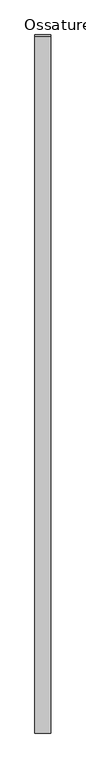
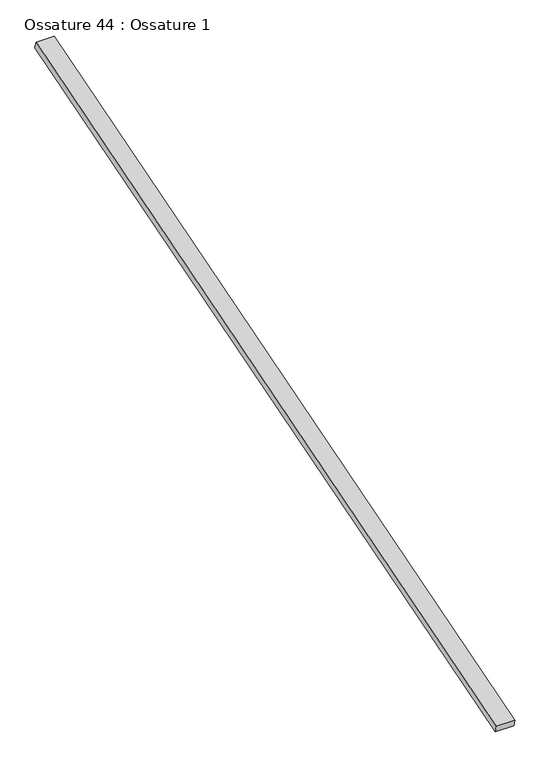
"""IFC4 building model written with IfcOpenShell, lengths in millimetres: beam geometry, Ossature 44 : Ossature 1."""

from ifc_helpers import new_model, si_unit, frame, origin, place, context, project, spatial, polyline, outline, extrude, source, transform, mapped, element, save


def ossature_44_ossature_1_62411328(model_context):
    return source(origin(), model_context, "Body", "SweptSolid", [
        extrude(outline(polyline([(0.0, 0.0), (0.0, -4543.0299679), (-100.0, -4543.0299679), (-100.0, 0.0), (0.0, 0.0)])), frame((10778.8466393, -833.3913565, 8153.6336115), z_axis=(0.0, -0.28734788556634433, 0.9578262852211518), x_axis=(-1.0, 0.0, 0.0)), (0.0, 0.0, 1.0), 40.0),
    ])


if __name__ == "__main__":
    model = new_model("IFC4")
    model_context = context("Model", 3, world=origin())
    ifc_project = project(units=[si_unit("LENGTHUNIT", "METRE", prefix="MILLI")], contexts=[model_context])
    site = spatial("IfcSite", under=ifc_project)
    building = spatial("IfcBuilding", under=site)
    placement = place(None, origin())
    ossature_44_ossature_1_shape = ossature_44_ossature_1_62411328(model_context)
    element("IfcBeam", 1, ObjectType="Ossature 44 : Ossature 1", at=placement, inside=building, context=model_context, shape_type="MappedRepresentation", body=[
        mapped(ossature_44_ossature_1_shape, transform((0.0, 0.0, 0.0), x_axis=(1.0, 0.0, 0.0), y_axis=(0.0, 1.0, 0.0), z_axis=(0.0, 0.0, 1.0))),
    ])
    save(model, "model.ifc")
